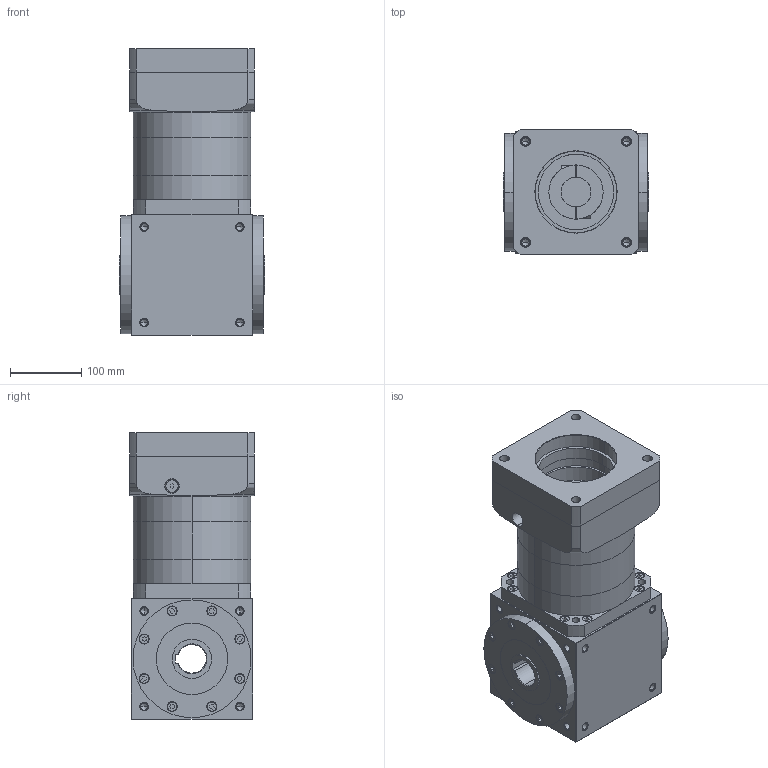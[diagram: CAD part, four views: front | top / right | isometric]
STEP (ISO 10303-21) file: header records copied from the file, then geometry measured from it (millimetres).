
FILE_DESCRIPTION (( 'STEP AP203' ), '1' );
FILE_NAME ('AT170-FH-L2-42-114.3-200.STEP', '2025-04-30T02:58:58', ( 'Windows User' ), ( 'P R C' ), 'SwSTEP 2.0', 'SolidWorks 2016', '' );
FILE_SCHEMA (( 'CONFIG_CONTROL_DESIGN' ));
Length unit declared in the file: millimetre
Products named in the file (6): AT170-输入法兰-A-42-80-114.3-M12-200; AT170-FH-L2-42-114.3-200; AT170-蛌褒眊极-謂怀堤; AT170-蛌倰怀堤楊擘; AT170-内齿圈108-1; AT170-樓綠啣-F1-綠33-饜113粣酗
Assembly tree (5 placements, depth 2):
  AT170-FH-L2-42-114.3-200
    AT170-蛌褒眊极-謂怀堤
    AT170-蛌倰怀堤楊擘
    AT170-内齿圈108-1
    AT170-樓綠啣-F1-綠33-饜113粣酗
    AT170-输入法兰-A-42-80-114.3-M12-200
Bounding box: 204 x 175 x 402 mm (x, y, z)
Volume: 8412542.1 mm3; surface area: 789855.4 mm2
Topology: 5 solids, 21 shells, 1578 faces, 4016 edges, 2520 vertices
Faces by surface type: plane 813, cylinder 365, cone 260, bspline 140
Entity records: 53526 total; most frequent: CARTESIAN_POINT 16174, ORIENTED_EDGE 7792, DIRECTION 7116, EDGE_CURVE 3896, LINE 2588, VECTOR 2588, VERTEX_POINT 2520, AXIS2_PLACEMENT_3D 2264
